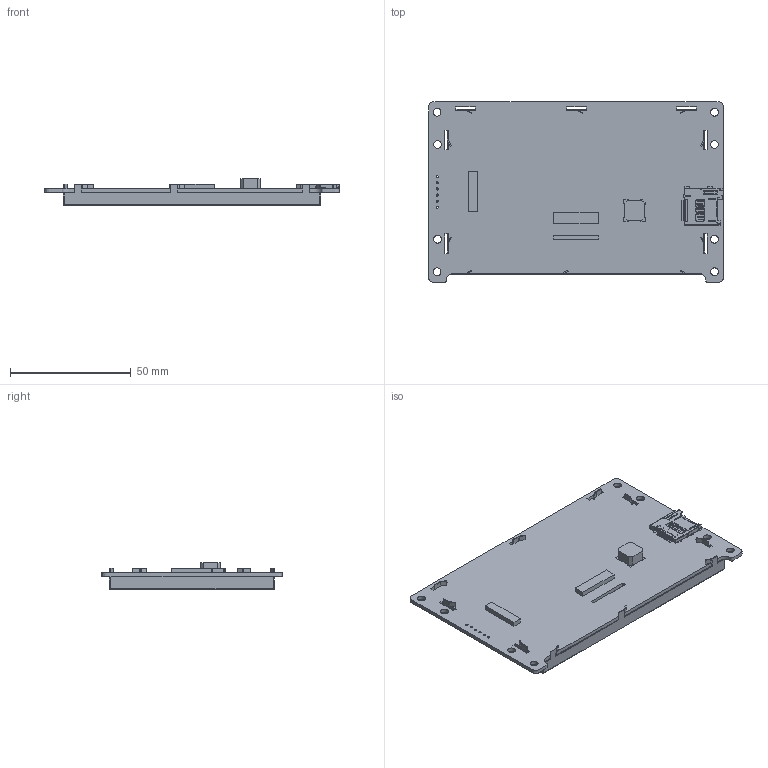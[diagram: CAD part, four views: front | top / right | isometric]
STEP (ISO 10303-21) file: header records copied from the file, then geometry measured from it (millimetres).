
FILE_DESCRIPTION(/* description */ (''),/* implementation_level */ '2;1');
FILE_NAME(/* name */ '',/* time_stamp */ '2023-05-19T14:42:03+08:00',/* author */ (''),/* organization */ (''),/* preprocessor_version */ 'ST-DEVELOPER v11',/* originating_system */ 'SIEMENS PLM Software NX 7.5',/* authorisation */ '');
FILE_SCHEMA (('AP203_CONFIGURATION_CONTROLLED_3D_DESIGN_OF_MECHANICAL_PARTS_AND_ASSEMBLIES_MIM_LF'));
Length unit declared in the file: millimetre
Products named in the file (1): SDWn043C23N
Bounding box: 121.9 x 74.7 x 11.1 mm (x, y, z)
Volume: 42690.3 mm3; surface area: 42330.7 mm2
Topology: 11 solids, 11 shells, 1135 faces, 3240 edges, 2103 vertices
Faces by surface type: plane 853, cylinder 280, cone 1, extrusion 1
Full cylindrical faces by diameter (mm): 0.889 x6, 3.2 x8
Entity records: 37235 total; most frequent: CARTESIAN_POINT 6626, ORIENTED_EDGE 6450, DIRECTION 6052, EDGE_CURVE 3225, VECTOR 2650, LINE 2649, VERTEX_POINT 2103, AXIS2_PLACEMENT_3D 1701
